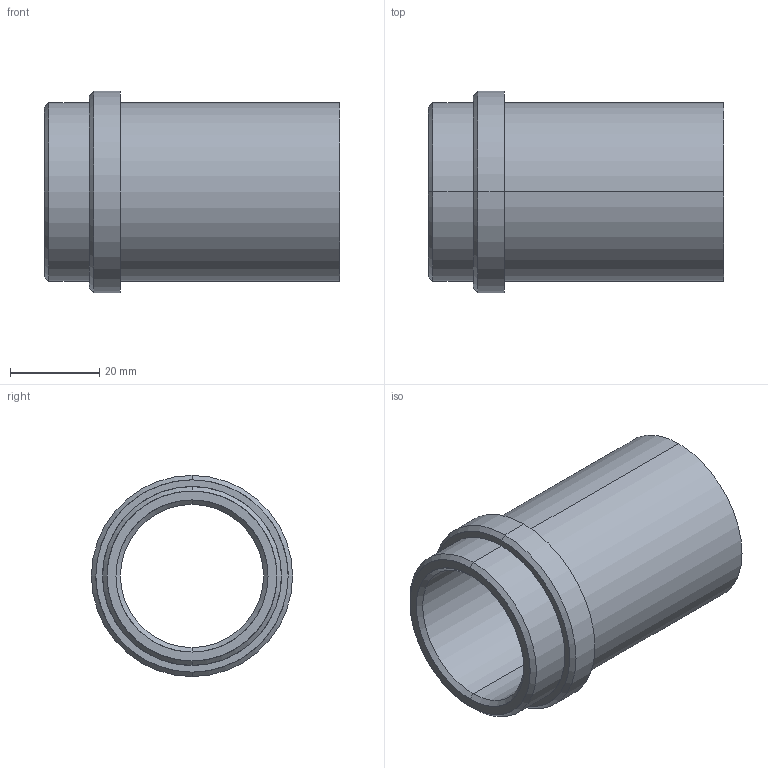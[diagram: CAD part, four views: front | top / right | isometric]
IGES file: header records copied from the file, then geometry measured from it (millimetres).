
Start section: START RECORD GO HERE.
Global section: file name: 358-32x66.igs; native system: DASSAULT SYSTEMES CATIA V5 R20 - www.3ds.com; preprocessor: CATIA Version 5 Release 20 ; author: Utente; organization: NB04-ASUS; date: 20210409.151627; units: millimetre
Bounding box: 66 x 45 x 45 mm (x, y, z)
Surface area: 16310 mm2 (no closed solid volume)
Topology: 0 solids, 0 shells, 20 faces, 128 edges, 128 vertices
Faces by surface type: revolution 16, plane 4
